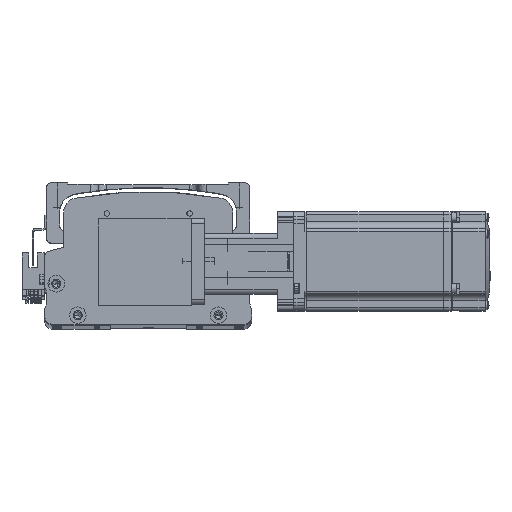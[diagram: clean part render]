
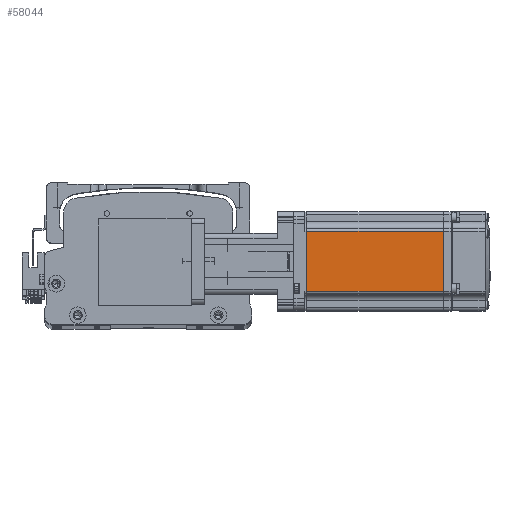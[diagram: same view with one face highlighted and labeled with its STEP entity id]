
A CAD part, top view. The second image highlights one B-rep face of the part: STEP entity #58044.
In plain terms, the highlighted planar face has unit normal (0, 0, 1) as drawn and (0, -1, 0) by its records, which use the part's own axes.
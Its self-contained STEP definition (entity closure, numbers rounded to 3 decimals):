
#4799 = CARTESIAN_POINT ( 'NONE',  ( -6.5, -30., -25. ) ) ;
#5836 = EDGE_CURVE ( 'NONE', #30940, #45743, #23773, .T. ) ;
#7045 = VECTOR ( 'NONE', #58867, 1000. ) ;
#7666 = EDGE_LOOP ( 'NONE', ( #28091, #60528, #53422, #47999 ) ) ;
#9555 = PLANE ( 'NONE',  #18496 ) ;
#9765 = DIRECTION ( 'NONE',  ( 0., 0., -1. ) ) ;
#10018 = CARTESIAN_POINT ( 'NONE',  ( -90.45, -30., 0. ) ) ;
#10671 = EDGE_CURVE ( 'NONE', #30940, #46219, #38872, .T. ) ;
#13640 = LINE ( 'NONE', #10018, #38471 ) ;
#15012 = DIRECTION ( 'NONE',  ( 0., 0., -1. ) ) ;
#17382 = DIRECTION ( 'NONE',  ( 0., 0., -1. ) ) ;
#18496 = AXIS2_PLACEMENT_3D ( 'NONE', #4799, #39488, #9765 ) ;
#23773 = LINE ( 'NONE', #42160, #48713 ) ;
#23857 = CARTESIAN_POINT ( 'NONE',  ( -90.45, -30., 18. ) ) ;
#24009 = CARTESIAN_POINT ( 'NONE',  ( -6.5, -30., -18. ) ) ;
#27134 = CARTESIAN_POINT ( 'NONE',  ( -7.75, -30., 18. ) ) ;
#28091 = ORIENTED_EDGE ( 'NONE', *, *, #5836, .F. ) ;
#30940 = VERTEX_POINT ( 'NONE', #27134 ) ;
#32114 = DIRECTION ( 'NONE',  ( -1., 0., 0. ) ) ;
#38471 = VECTOR ( 'NONE', #15012, 1000. ) ;
#38872 = LINE ( 'NONE', #61992, #52151 ) ;
#39488 = DIRECTION ( 'NONE',  ( 0., -1., 0. ) ) ;
#40919 = FACE_OUTER_BOUND ( 'NONE', #7666, .T. ) ;
#42160 = CARTESIAN_POINT ( 'NONE',  ( -7.75, -30., 0. ) ) ;
#42413 = CARTESIAN_POINT ( 'NONE',  ( -90.45, -30., -18. ) ) ;
#42961 = VERTEX_POINT ( 'NONE', #42413 ) ;
#45117 = LINE ( 'NONE', #24009, #7045 ) ;
#45743 = VERTEX_POINT ( 'NONE', #59675 ) ;
#46219 = VERTEX_POINT ( 'NONE', #23857 ) ;
#47999 = ORIENTED_EDGE ( 'NONE', *, *, #56430, .F. ) ;
#48713 = VECTOR ( 'NONE', #17382, 1000. ) ;
#48884 = EDGE_CURVE ( 'NONE', #46219, #42961, #13640, .T. ) ;
#52151 = VECTOR ( 'NONE', #32114, 1000. ) ;
#53422 = ORIENTED_EDGE ( 'NONE', *, *, #48884, .T. ) ;
#56430 = EDGE_CURVE ( 'NONE', #45743, #42961, #45117, .T. ) ;
#58044 = ADVANCED_FACE ( 'NONE', ( #40919 ), #9555, .T. ) ;
#58867 = DIRECTION ( 'NONE',  ( -1., 0., 0. ) ) ;
#59675 = CARTESIAN_POINT ( 'NONE',  ( -7.75, -30., -18. ) ) ;
#60528 = ORIENTED_EDGE ( 'NONE', *, *, #10671, .T. ) ;
#61992 = CARTESIAN_POINT ( 'NONE',  ( -6.5, -30., 18. ) ) ;
